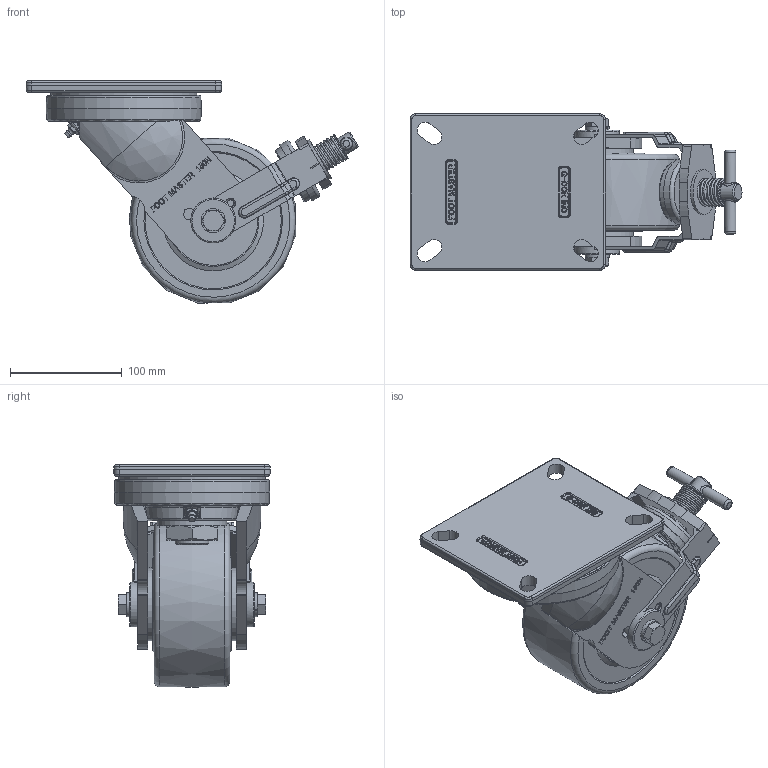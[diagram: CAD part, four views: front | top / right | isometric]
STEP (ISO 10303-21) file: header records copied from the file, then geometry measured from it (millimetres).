
FILE_DESCRIPTION(/* description */ (''),/* implementation_level */ '2;1');
FILE_NAME(/* name */ 'Y:\1.기술연구소\2.연구개발 진행중\133.고하중캐스터 브레이크 타입 변경건_2025.11.03\1.도면\4.홈페이지용 도면\01. 3D\GXT-150 SERIES\GXT-150-STEP\GXT-150N-BSF-MCD.stp',/* time_stamp */ '2026-07-22T11:41:07+09:00',/* author */ ('장용하'),/* organization */ (''),/* preprocessor_version */ 'ST-DEVELOPER v18.1',/* originating_system */ 'Autodesk Inventor 2021',/* authorisation */ '');
FILE_SCHEMA (('CONFIG_CONTROL_DESIGN'));
Products named in the file (1): GXT-150N-BSF-MCD
Bounding box: 297.09 x 140 x 198.74 mm (x, y, z)
Volume: 2290590.5 mm3; surface area: 227998.4 mm2
Topology: 1 solids, 2 shells, 1777 faces, 4774 edges, 3125 vertices
Faces by surface type: plane 850, bspline 621, cylinder 206, torus 53, cone 43, sphere 4
Full cylindrical faces by diameter (mm): 4 x1, 10 x2, 12 x2, 13 x2, 16 x1, 20 x1, 30 x1, 31.606 x1, 37.448 x2, 40 x3, 54 x2, 58 x1, 62.5 x1, 65 x2, 131.086 x1
Entity records: 60567 total; most frequent: CARTESIAN_POINT 19856, ORIENTED_EDGE 9546, DIRECTION 6515, EDGE_CURVE 4773, VERTEX_POINT 3126, LINE 2725, VECTOR 2725, EDGE_LOOP 1927
